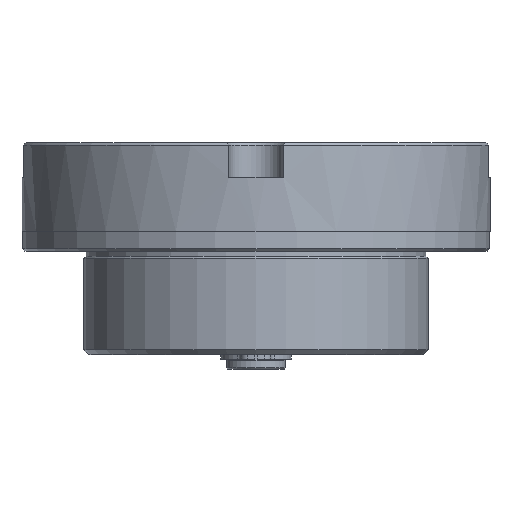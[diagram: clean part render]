
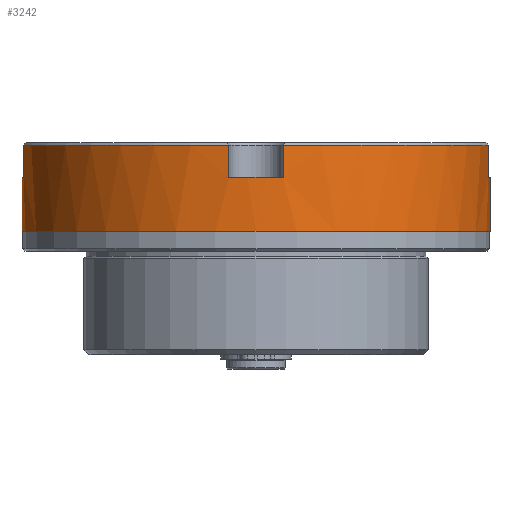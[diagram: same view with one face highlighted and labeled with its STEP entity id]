
A CAD part, front view. The second image highlights one B-rep face of the part: STEP entity #3242.
In plain terms, the highlighted cylindrical face has radius 47.5 mm (diameter 95 mm), a partial arc.
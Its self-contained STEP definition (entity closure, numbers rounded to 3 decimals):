
#20 = CARTESIAN_POINT ( 'NONE',  ( 47.5, 0., 4. ) ) ;
#49 = AXIS2_PLACEMENT_3D ( 'NONE', #783, #3968, #4411 ) ;
#77 = ORIENTED_EDGE ( 'NONE', *, *, #1187, .T. ) ;
#107 = CIRCLE ( 'NONE', #2754, 47.5 ) ;
#120 = AXIS2_PLACEMENT_3D ( 'NONE', #2159, #997, #1051 ) ;
#129 = AXIS2_PLACEMENT_3D ( 'NONE', #204, #1650, #1293 ) ;
#148 = ORIENTED_EDGE ( 'NONE', *, *, #2311, .F. ) ;
#204 = CARTESIAN_POINT ( 'NONE',  ( 0., 0., 21.5 ) ) ;
#266 = VERTEX_POINT ( 'NONE', #1521 ) ;
#268 = CARTESIAN_POINT ( 'NONE',  ( 5.5, -47.181, 21.5 ) ) ;
#315 = CARTESIAN_POINT ( 'NONE',  ( 0., 0., 0. ) ) ;
#352 = LINE ( 'NONE', #1798, #729 ) ;
#359 = CARTESIAN_POINT ( 'NONE',  ( 0., 0., 4. ) ) ;
#390 = CARTESIAN_POINT ( 'NONE',  ( -5.5, -47.181, 15. ) ) ;
#433 = CIRCLE ( 'NONE', #120, 47.5 ) ;
#465 = FACE_OUTER_BOUND ( 'NONE', #2063, .T. ) ;
#468 = DIRECTION ( 'NONE',  ( 0., 0., 1. ) ) ;
#490 = ORIENTED_EDGE ( 'NONE', *, *, #4648, .F. ) ;
#568 = AXIS2_PLACEMENT_3D ( 'NONE', #359, #1494, #2953 ) ;
#669 = CARTESIAN_POINT ( 'NONE',  ( -47.181, -5.5, 15. ) ) ;
#682 = VERTEX_POINT ( 'NONE', #975 ) ;
#687 = ORIENTED_EDGE ( 'NONE', *, *, #2696, .F. ) ;
#689 = ORIENTED_EDGE ( 'NONE', *, *, #760, .F. ) ;
#693 = DIRECTION ( 'NONE',  ( 0., 0., 1. ) ) ;
#701 = CARTESIAN_POINT ( 'NONE',  ( 47.181, -5.5, 15. ) ) ;
#722 = LINE ( 'NONE', #2161, #3984 ) ;
#729 = VECTOR ( 'NONE', #3233, 1000. ) ;
#760 = EDGE_CURVE ( 'NONE', #1908, #3238, #1613, .T. ) ;
#783 = CARTESIAN_POINT ( 'NONE',  ( 0., 0., 21.5 ) ) ;
#824 = VERTEX_POINT ( 'NONE', #3998 ) ;
#905 = EDGE_CURVE ( 'NONE', #3866, #2802, #107, .T. ) ;
#975 = CARTESIAN_POINT ( 'NONE',  ( -47.181, -5.5, 21.5 ) ) ;
#997 = DIRECTION ( 'NONE',  ( 0., 0., 1. ) ) ;
#1051 = DIRECTION ( 'NONE',  ( 0., 1., 0. ) ) ;
#1187 = EDGE_CURVE ( 'NONE', #266, #3238, #352, .T. ) ;
#1217 = LINE ( 'NONE', #2189, #2834 ) ;
#1293 = DIRECTION ( 'NONE',  ( 1., 0., 0. ) ) ;
#1407 = DIRECTION ( 'NONE',  ( 0., 0., -1. ) ) ;
#1441 = DIRECTION ( 'NONE',  ( 0., 0., 1. ) ) ;
#1494 = DIRECTION ( 'NONE',  ( 0., 0., -1. ) ) ;
#1521 = CARTESIAN_POINT ( 'NONE',  ( -47.5, 0., 15. ) ) ;
#1536 = EDGE_CURVE ( 'NONE', #2802, #1908, #1217, .T. ) ;
#1539 = DIRECTION ( 'NONE',  ( -1., 0., 0. ) ) ;
#1558 = EDGE_CURVE ( 'NONE', #2919, #824, #3618, .T. ) ;
#1613 = CIRCLE ( 'NONE', #568, 47.5 ) ;
#1639 = VECTOR ( 'NONE', #3126, 1000. ) ;
#1650 = DIRECTION ( 'NONE',  ( 0., 0., -1. ) ) ;
#1721 = LINE ( 'NONE', #2427, #1639 ) ;
#1793 = EDGE_CURVE ( 'NONE', #2919, #2261, #433, .T. ) ;
#1798 = CARTESIAN_POINT ( 'NONE',  ( -47.5, 0., 0. ) ) ;
#1832 = DIRECTION ( 'NONE',  ( 0., 0., -1. ) ) ;
#1837 = CARTESIAN_POINT ( 'NONE',  ( 47.5, 0., 15. ) ) ;
#1870 = VECTOR ( 'NONE', #693, 1000. ) ;
#1908 = VERTEX_POINT ( 'NONE', #20 ) ;
#1960 = ORIENTED_EDGE ( 'NONE', *, *, #1793, .F. ) ;
#1961 = CARTESIAN_POINT ( 'NONE',  ( 47.181, -5.5, 21.5 ) ) ;
#2063 = EDGE_LOOP ( 'NONE', ( #2907, #3244, #4449, #4174, #148, #1960, #4673, #2338, #687, #490, #77, #689 ) ) ;
#2100 = CIRCLE ( 'NONE', #129, 47.5 ) ;
#2129 = DIRECTION ( 'NONE',  ( 1., 0., 0. ) ) ;
#2156 = LINE ( 'NONE', #3847, #1870 ) ;
#2159 = CARTESIAN_POINT ( 'NONE',  ( 0., 0., 15. ) ) ;
#2161 = CARTESIAN_POINT ( 'NONE',  ( 47.181, -5.5, 15. ) ) ;
#2171 = CIRCLE ( 'NONE', #49, 47.5 ) ;
#2189 = CARTESIAN_POINT ( 'NONE',  ( 47.5, 0., 0. ) ) ;
#2236 = VERTEX_POINT ( 'NONE', #669 ) ;
#2253 = CYLINDRICAL_SURFACE ( 'NONE', #2697, 47.5 ) ;
#2254 = DIRECTION ( 'NONE',  ( 0., 0., 1. ) ) ;
#2261 = VERTEX_POINT ( 'NONE', #4604 ) ;
#2311 = EDGE_CURVE ( 'NONE', #2261, #2733, #2156, .T. ) ;
#2338 = ORIENTED_EDGE ( 'NONE', *, *, #2362, .T. ) ;
#2362 = EDGE_CURVE ( 'NONE', #824, #682, #2171, .T. ) ;
#2427 = CARTESIAN_POINT ( 'NONE',  ( -47.181, -5.5, 15. ) ) ;
#2603 = EDGE_CURVE ( 'NONE', #3700, #2733, #2100, .T. ) ;
#2696 = EDGE_CURVE ( 'NONE', #2236, #682, #1721, .T. ) ;
#2697 = AXIS2_PLACEMENT_3D ( 'NONE', #315, #1407, #1539 ) ;
#2733 = VERTEX_POINT ( 'NONE', #268 ) ;
#2754 = AXIS2_PLACEMENT_3D ( 'NONE', #3771, #4109, #3410 ) ;
#2802 = VERTEX_POINT ( 'NONE', #1837 ) ;
#2804 = CARTESIAN_POINT ( 'NONE',  ( 0., 0., 15. ) ) ;
#2834 = VECTOR ( 'NONE', #1832, 1000. ) ;
#2907 = ORIENTED_EDGE ( 'NONE', *, *, #1536, .F. ) ;
#2919 = VERTEX_POINT ( 'NONE', #4314 ) ;
#2937 = AXIS2_PLACEMENT_3D ( 'NONE', #2804, #1441, #2129 ) ;
#2953 = DIRECTION ( 'NONE',  ( -1., 0., 0. ) ) ;
#3126 = DIRECTION ( 'NONE',  ( 0., 0., 1. ) ) ;
#3233 = DIRECTION ( 'NONE',  ( 0., 0., -1. ) ) ;
#3238 = VERTEX_POINT ( 'NONE', #4071 ) ;
#3242 = ADVANCED_FACE ( 'NONE', ( #465 ), #2253, .T. ) ;
#3244 = ORIENTED_EDGE ( 'NONE', *, *, #905, .F. ) ;
#3410 = DIRECTION ( 'NONE',  ( -1., 0., 0. ) ) ;
#3618 = LINE ( 'NONE', #390, #3812 ) ;
#3700 = VERTEX_POINT ( 'NONE', #1961 ) ;
#3760 = CIRCLE ( 'NONE', #2937, 47.5 ) ;
#3771 = CARTESIAN_POINT ( 'NONE',  ( 0., 0., 15. ) ) ;
#3812 = VECTOR ( 'NONE', #468, 1000. ) ;
#3847 = CARTESIAN_POINT ( 'NONE',  ( 5.5, -47.181, 15. ) ) ;
#3866 = VERTEX_POINT ( 'NONE', #701 ) ;
#3891 = EDGE_CURVE ( 'NONE', #3866, #3700, #722, .T. ) ;
#3968 = DIRECTION ( 'NONE',  ( 0., 0., -1. ) ) ;
#3984 = VECTOR ( 'NONE', #2254, 1000. ) ;
#3998 = CARTESIAN_POINT ( 'NONE',  ( -5.5, -47.181, 21.5 ) ) ;
#4071 = CARTESIAN_POINT ( 'NONE',  ( -47.5, 0., 4. ) ) ;
#4109 = DIRECTION ( 'NONE',  ( 0., 0., 1. ) ) ;
#4174 = ORIENTED_EDGE ( 'NONE', *, *, #2603, .T. ) ;
#4314 = CARTESIAN_POINT ( 'NONE',  ( -5.5, -47.181, 15. ) ) ;
#4411 = DIRECTION ( 'NONE',  ( 1., 0., 0. ) ) ;
#4449 = ORIENTED_EDGE ( 'NONE', *, *, #3891, .T. ) ;
#4604 = CARTESIAN_POINT ( 'NONE',  ( 5.5, -47.181, 15. ) ) ;
#4648 = EDGE_CURVE ( 'NONE', #266, #2236, #3760, .T. ) ;
#4673 = ORIENTED_EDGE ( 'NONE', *, *, #1558, .T. ) ;
